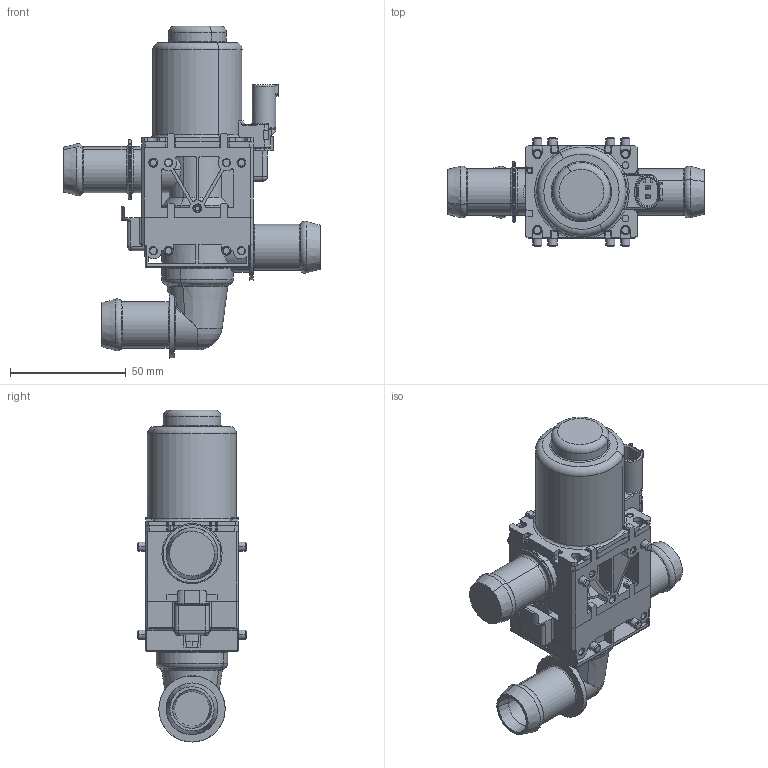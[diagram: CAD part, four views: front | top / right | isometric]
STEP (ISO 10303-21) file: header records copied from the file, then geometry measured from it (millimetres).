
FILE_DESCRIPTION(('CATIA V5 STEP Exchange'),'2;1');
FILE_NAME('C:\Documents and Settings\drk2bue\Desktop\0_140_A00_085_MV204.stp','2012-05-02T08:11:49+00:00',('none'),('none'),'CATIA Version 5 Release 19 SP 9 (IN-10)','CATIA V5 STEP AP214','none');
FILE_SCHEMA(('AUTOMOTIVE_DESIGN { 1 0 10303 214 1 1 1 1 }'));
Length unit declared in the file: millimetre
Products named in the file (1): 0 140 A00 085
Bounding box: 110.7 x 47 x 143.3 mm (x, y, z)
Volume: 190800.5 mm3; surface area: 53783.7 mm2
Topology: 5 solids, 5 shells, 1074 faces, 2790 edges, 1736 vertices
Faces by surface type: plane 447, cylinder 415, cone 85, torus 74, sphere 28, bspline 25
Entity records: 34472 total; most frequent: CARTESIAN_POINT 8145, ORIENTED_EDGE 5508, DIRECTION 3942, EDGE_CURVE 2754, VERTEX_POINT 1736, AXIS2_PLACEMENT_3D 1666, VECTOR 1515, LINE 1515
